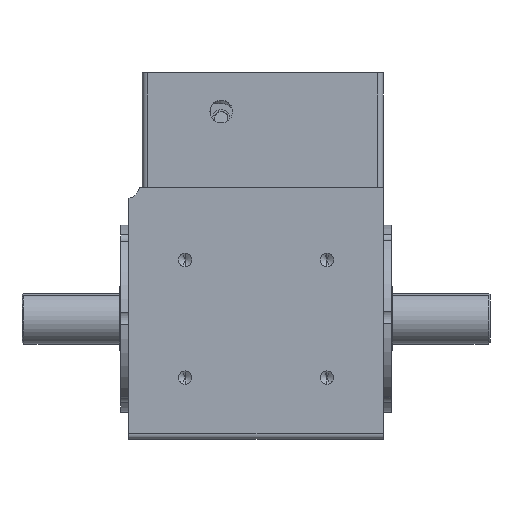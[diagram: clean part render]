
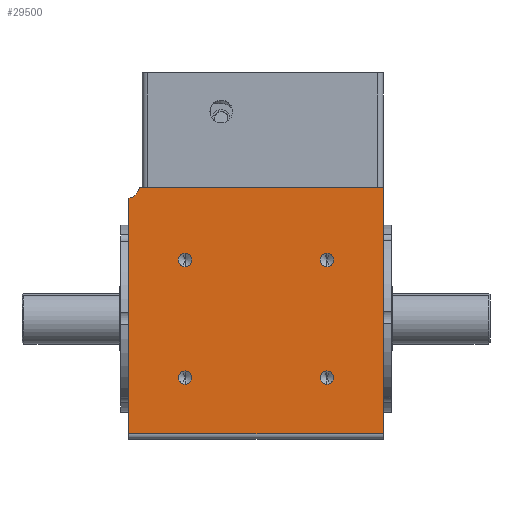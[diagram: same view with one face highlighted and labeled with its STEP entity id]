
A CAD part, front view. The second image highlights one B-rep face of the part: STEP entity #29500.
In plain terms, the highlighted planar face has unit normal (0, -1, 0).
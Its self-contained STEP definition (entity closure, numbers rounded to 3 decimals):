
#179 = DIRECTION ( 'NONE',  ( 0., -1., 0. ) ) ;
#1186 = DIRECTION ( 'NONE',  ( 0., -1., 0. ) ) ;
#1428 = CARTESIAN_POINT ( 'NONE',  ( 36.257, -60.486, 64.5 ) ) ;
#1433 = CARTESIAN_POINT ( 'NONE',  ( -37.743, -60.486, 94. ) ) ;
#1464 = ORIENTED_EDGE ( 'NONE', *, *, #19543, .T. ) ;
#1539 = DIRECTION ( 'NONE',  ( 0., 0., 1. ) ) ;
#1858 = ORIENTED_EDGE ( 'NONE', *, *, #9787, .T. ) ;
#1924 = DIRECTION ( 'NONE',  ( 0., -1., 0. ) ) ;
#2121 = VERTEX_POINT ( 'NONE', #2408 ) ;
#2279 = DIRECTION ( 'NONE',  ( 0., 0., -1. ) ) ;
#2408 = CARTESIAN_POINT ( 'NONE',  ( 36.257, -60.486, 20.5 ) ) ;
#2765 = CARTESIAN_POINT ( 'NONE',  ( -37.743, -60.486, 94. ) ) ;
#2911 = VERTEX_POINT ( 'NONE', #3614 ) ;
#3317 = VECTOR ( 'NONE', #20182, 1000. ) ;
#3614 = CARTESIAN_POINT ( 'NONE',  ( -16.743, -60.486, 64.5 ) ) ;
#3919 = FACE_OUTER_BOUND ( 'NONE', #20627, .T. ) ;
#3988 = VERTEX_POINT ( 'NONE', #26087 ) ;
#4327 = CIRCLE ( 'NONE', #32623, 2.5 ) ;
#4531 = ORIENTED_EDGE ( 'NONE', *, *, #18618, .F. ) ;
#4744 = CARTESIAN_POINT ( 'NONE',  ( -16.743, -60.486, 20.5 ) ) ;
#4776 = LINE ( 'NONE', #12452, #31327 ) ;
#4913 = CARTESIAN_POINT ( 'NONE',  ( 57.257, -60.486, 2. ) ) ;
#4987 = ORIENTED_EDGE ( 'NONE', *, *, #25205, .F. ) ;
#5830 = CARTESIAN_POINT ( 'NONE',  ( -16.743, -60.486, 23. ) ) ;
#5916 = CIRCLE ( 'NONE', #20626, 2.5 ) ;
#6287 = CIRCLE ( 'NONE', #27730, 2.5 ) ;
#6694 = EDGE_LOOP ( 'NONE', ( #4531, #29753 ) ) ;
#6920 = EDGE_CURVE ( 'NONE', #24421, #25395, #9535, .T. ) ;
#6947 = AXIS2_PLACEMENT_3D ( 'NONE', #16687, #1186, #19274 ) ;
#7746 = CARTESIAN_POINT ( 'NONE',  ( -37.743, -60.486, 90.101 ) ) ;
#7973 = EDGE_CURVE ( 'NONE', #22061, #2911, #28776, .T. ) ;
#8399 = DIRECTION ( 'NONE',  ( 0., 0., -1. ) ) ;
#8660 = ORIENTED_EDGE ( 'NONE', *, *, #16419, .F. ) ;
#8712 = CARTESIAN_POINT ( 'NONE',  ( -16.743, -60.486, 23. ) ) ;
#8846 = AXIS2_PLACEMENT_3D ( 'NONE', #33115, #17749, #2279 ) ;
#9033 = ORIENTED_EDGE ( 'NONE', *, *, #6920, .F. ) ;
#9361 = VERTEX_POINT ( 'NONE', #4913 ) ;
#9535 = CIRCLE ( 'NONE', #21570, 2.5 ) ;
#9589 = ORIENTED_EDGE ( 'NONE', *, *, #31495, .F. ) ;
#9787 = EDGE_CURVE ( 'NONE', #11738, #9361, #29910, .T. ) ;
#9997 = DIRECTION ( 'NONE',  ( 0., -1., 0. ) ) ;
#10040 = DIRECTION ( 'NONE',  ( 1., 0., 0. ) ) ;
#10078 = CARTESIAN_POINT ( 'NONE',  ( -38.743, -60.486, 95. ) ) ;
#10246 = ORIENTED_EDGE ( 'NONE', *, *, #7973, .F. ) ;
#10809 = FACE_BOUND ( 'NONE', #25998, .T. ) ;
#10875 = CARTESIAN_POINT ( 'NONE',  ( -16.743, -60.486, 69.5 ) ) ;
#11115 = DIRECTION ( 'NONE',  ( 0., -1., 0. ) ) ;
#11313 = DIRECTION ( 'NONE',  ( 0., 0., -1. ) ) ;
#11738 = VERTEX_POINT ( 'NONE', #30991 ) ;
#12452 = CARTESIAN_POINT ( 'NONE',  ( 57.257, -60.486, 94. ) ) ;
#12461 = CARTESIAN_POINT ( 'NONE',  ( 57.257, -60.486, 94. ) ) ;
#12693 = DIRECTION ( 'NONE',  ( 0., 0., -1. ) ) ;
#13077 = AXIS2_PLACEMENT_3D ( 'NONE', #1433, #17036, #1539 ) ;
#13756 = AXIS2_PLACEMENT_3D ( 'NONE', #5830, #23799, #8399 ) ;
#13990 = ORIENTED_EDGE ( 'NONE', *, *, #30669, .F. ) ;
#14121 = EDGE_LOOP ( 'NONE', ( #4987, #10246 ) ) ;
#14396 = VERTEX_POINT ( 'NONE', #22848 ) ;
#15422 = CIRCLE ( 'NONE', #8846, 2.5 ) ;
#15707 = CARTESIAN_POINT ( 'NONE',  ( 36.257, -60.486, 23. ) ) ;
#15888 = AXIS2_PLACEMENT_3D ( 'NONE', #15707, #179, #18259 ) ;
#16419 = EDGE_CURVE ( 'NONE', #18873, #9361, #4776, .T. ) ;
#16687 = CARTESIAN_POINT ( 'NONE',  ( -16.743, -60.486, 67. ) ) ;
#16921 = PLANE ( 'NONE',  #13077 ) ;
#17036 = DIRECTION ( 'NONE',  ( 0., 1., 0. ) ) ;
#17414 = CARTESIAN_POINT ( 'NONE',  ( 36.257, -60.486, 23. ) ) ;
#17647 = FACE_BOUND ( 'NONE', #6694, .T. ) ;
#17749 = DIRECTION ( 'NONE',  ( 0., -1., 0. ) ) ;
#17944 = CARTESIAN_POINT ( 'NONE',  ( -16.743, -60.486, 25.5 ) ) ;
#18259 = DIRECTION ( 'NONE',  ( 0., 0., -1. ) ) ;
#18618 = EDGE_CURVE ( 'NONE', #23108, #28336, #4327, .T. ) ;
#18873 = VERTEX_POINT ( 'NONE', #12461 ) ;
#19121 = ORIENTED_EDGE ( 'NONE', *, *, #21887, .F. ) ;
#19188 = LINE ( 'NONE', #2765, #32025 ) ;
#19274 = DIRECTION ( 'NONE',  ( 0., 0., -1. ) ) ;
#19470 = VERTEX_POINT ( 'NONE', #7746 ) ;
#19543 = EDGE_CURVE ( 'NONE', #19470, #11738, #19188, .T. ) ;
#19599 = CIRCLE ( 'NONE', #13756, 2.5 ) ;
#19989 = DIRECTION ( 'NONE',  ( 0., 0., -1. ) ) ;
#20101 = ORIENTED_EDGE ( 'NONE', *, *, #29765, .F. ) ;
#20182 = DIRECTION ( 'NONE',  ( 1., 0., 0. ) ) ;
#20290 = VECTOR ( 'NONE', #10040, 1000. ) ;
#20626 = AXIS2_PLACEMENT_3D ( 'NONE', #26479, #11115, #29084 ) ;
#20627 = EDGE_LOOP ( 'NONE', ( #1464, #1858, #8660, #23008, #19121 ) ) ;
#21290 = CARTESIAN_POINT ( 'NONE',  ( 36.257, -60.486, 69.5 ) ) ;
#21570 = AXIS2_PLACEMENT_3D ( 'NONE', #25379, #9997, #27981 ) ;
#21887 = EDGE_CURVE ( 'NONE', #19470, #3988, #23500, .T. ) ;
#22061 = VERTEX_POINT ( 'NONE', #10875 ) ;
#22848 = CARTESIAN_POINT ( 'NONE',  ( 36.257, -60.486, 25.5 ) ) ;
#23008 = ORIENTED_EDGE ( 'NONE', *, *, #23133, .F. ) ;
#23108 = VERTEX_POINT ( 'NONE', #4744 ) ;
#23133 = EDGE_CURVE ( 'NONE', #3988, #18873, #27109, .T. ) ;
#23500 = CIRCLE ( 'NONE', #24517, 5. ) ;
#23799 = DIRECTION ( 'NONE',  ( 0., -1., 0. ) ) ;
#24421 = VERTEX_POINT ( 'NONE', #1428 ) ;
#24466 = FACE_BOUND ( 'NONE', #14121, .T. ) ;
#24517 = AXIS2_PLACEMENT_3D ( 'NONE', #10078, #28075, #12693 ) ;
#24839 = CIRCLE ( 'NONE', #15888, 2.5 ) ;
#25205 = EDGE_CURVE ( 'NONE', #2911, #22061, #15422, .T. ) ;
#25379 = CARTESIAN_POINT ( 'NONE',  ( 36.257, -60.486, 67. ) ) ;
#25395 = VERTEX_POINT ( 'NONE', #21290 ) ;
#25998 = EDGE_LOOP ( 'NONE', ( #20101, #13990 ) ) ;
#26087 = CARTESIAN_POINT ( 'NONE',  ( -33.844, -60.486, 94. ) ) ;
#26479 = CARTESIAN_POINT ( 'NONE',  ( 36.257, -60.486, 67. ) ) ;
#26679 = DIRECTION ( 'NONE',  ( 0., -1., 0. ) ) ;
#27109 = LINE ( 'NONE', #33062, #20290 ) ;
#27730 = AXIS2_PLACEMENT_3D ( 'NONE', #17414, #1924, #19989 ) ;
#27981 = DIRECTION ( 'NONE',  ( 0., 0., -1. ) ) ;
#28041 = DIRECTION ( 'NONE',  ( 0., 0., -1. ) ) ;
#28075 = DIRECTION ( 'NONE',  ( 0., -1., 0. ) ) ;
#28270 = EDGE_LOOP ( 'NONE', ( #9033, #9589 ) ) ;
#28336 = VERTEX_POINT ( 'NONE', #17944 ) ;
#28338 = DIRECTION ( 'NONE',  ( 0., 0., -1. ) ) ;
#28776 = CIRCLE ( 'NONE', #6947, 2.5 ) ;
#29084 = DIRECTION ( 'NONE',  ( 0., 0., -1. ) ) ;
#29500 = ADVANCED_FACE ( 'NONE', ( #24466, #31291, #17647, #10809, #3919 ), #16921, .F. ) ;
#29753 = ORIENTED_EDGE ( 'NONE', *, *, #31476, .F. ) ;
#29765 = EDGE_CURVE ( 'NONE', #2121, #14396, #24839, .T. ) ;
#29910 = LINE ( 'NONE', #30517, #3317 ) ;
#30517 = CARTESIAN_POINT ( 'NONE',  ( 57.257, -60.486, 2. ) ) ;
#30669 = EDGE_CURVE ( 'NONE', #14396, #2121, #6287, .T. ) ;
#30991 = CARTESIAN_POINT ( 'NONE',  ( -37.743, -60.486, 2. ) ) ;
#31291 = FACE_BOUND ( 'NONE', #28270, .T. ) ;
#31327 = VECTOR ( 'NONE', #28041, 1000. ) ;
#31476 = EDGE_CURVE ( 'NONE', #28336, #23108, #19599, .T. ) ;
#31495 = EDGE_CURVE ( 'NONE', #25395, #24421, #5916, .T. ) ;
#32025 = VECTOR ( 'NONE', #28338, 1000. ) ;
#32623 = AXIS2_PLACEMENT_3D ( 'NONE', #8712, #26679, #11313 ) ;
#33062 = CARTESIAN_POINT ( 'NONE',  ( -37.743, -60.486, 94. ) ) ;
#33115 = CARTESIAN_POINT ( 'NONE',  ( -16.743, -60.486, 67. ) ) ;
